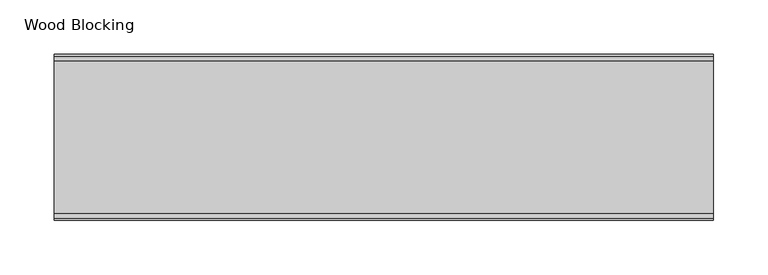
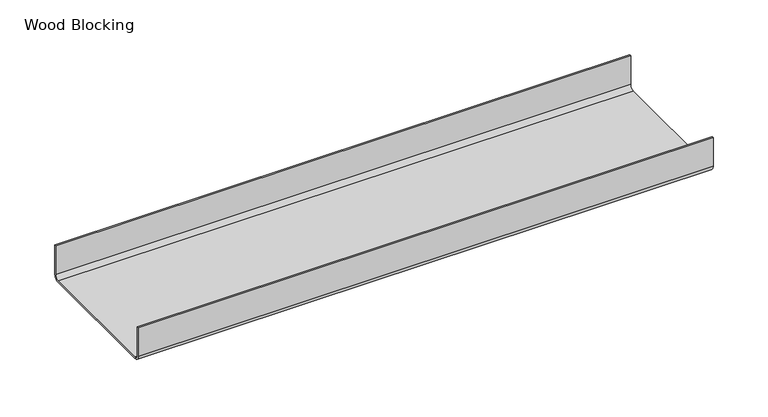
"""IFC4 building model written with IfcOpenShell, lengths in millimetres: proxy geometry, CRAi Generic Model Line Based Metal Framing Track : Wood Blocking."""

from ifc_helpers import new_model, si_unit, point, frame, frame_2d, origin, place, context, project, spatial, polyline, circle_curve, trimmed, segment, composite_curve, outline, extrude, source, transform, mapped, element, save


def wood_blocking_9d9260b2(model_context):
    return source(origin(), model_context, "Body", "SweptSolid", [
        extrude(outline(composite_curve([segment(polyline([(146.05, 0.0), (6.35, 0.0)]), True, "CONTINUOUS"), segment(trimmed(circle_curve(frame_2d((6.35, 6.35)), 6.35), [point((6.35, 0.0))], [point((0.0, 6.35))], False, "CARTESIAN"), True, "CONTINUOUS"), segment(polyline([(0.0, 6.35), (0.0, 38.1), (1.5875, 38.1), (1.5875, 6.35)]), True, "CONTINUOUS"), segment(trimmed(circle_curve(frame_2d((6.35, 6.35)), 4.7625), [point((1.5875, 6.35))], [point((6.35, 1.5875))], True, "CARTESIAN"), True, "CONTINUOUS"), segment(polyline([(6.35, 1.5875), (146.0504713, 1.5875)]), True, "CONTINUOUS"), segment(trimmed(circle_curve(frame_2d((146.05, 6.35)), 4.7625), [point((146.0504713, 1.5875))], [point((150.8125, 6.3495615))], True, "CARTESIAN"), True, "CONTINUOUS"), segment(polyline([(150.8125, 6.3495615), (150.8125, 38.1), (152.4, 38.1), (152.4, 6.35)]), True, "CONTINUOUS"), segment(trimmed(circle_curve(frame_2d((146.05, 6.35)), 6.35), [point((152.4, 6.35))], [point((146.05, 0.0))], False, "CARTESIAN"), True, "CONTINUOUS")], self_intersect=False)), frame((0.0, 0.0, 0.0), z_axis=(1.0, 0.0, 0.0), x_axis=(0.0, 1.0, 0.0)), (0.0, 0.0, 1.0), 605.5667607),
    ])


if __name__ == "__main__":
    model = new_model("IFC4")
    model_context = context("Model", 3, world=origin())
    ifc_project = project(units=[si_unit("LENGTHUNIT", "METRE", prefix="MILLI")], contexts=[model_context])
    site = spatial("IfcSite", under=ifc_project)
    building = spatial("IfcBuilding", under=site)
    placement = place(None, origin())
    wood_blocking_shape = wood_blocking_9d9260b2(model_context)
    element("IfcBuildingElementProxy", 1, Name="CRAi Generic Model Line Based Metal Framing Track : Wood Blocking", ObjectType="CRAi Generic Model Line Based Metal Framing Track : Wood Blocking", at=placement, inside=building, context=model_context, shape_type="MappedRepresentation", body=[
        mapped(wood_blocking_shape, transform((0.0, 0.0, 0.0), x_axis=(1.0, 0.0, 0.0), y_axis=(0.0, 1.0, 0.0), z_axis=(0.0, 0.0, 1.0))),
    ])
    save(model, "model.ifc")
